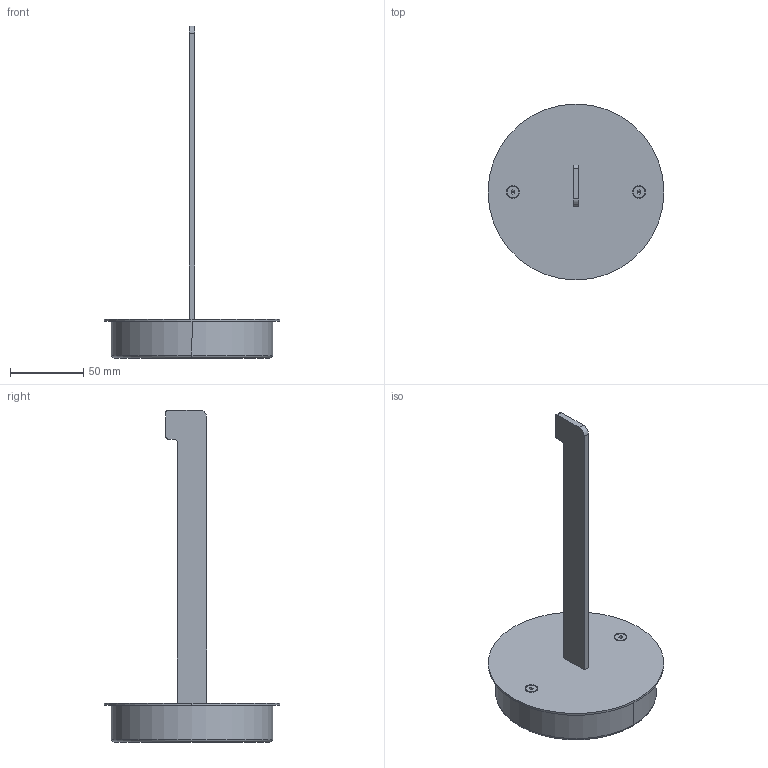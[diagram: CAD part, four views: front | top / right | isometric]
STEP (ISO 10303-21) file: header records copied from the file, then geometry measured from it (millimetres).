
FILE_DESCRIPTION((''),'2;1');
FILE_NAME('SANTORINI_HARDWIRED_WALL_BRACKE_ASM','2014-07-22T',('oftec'),(''),'PRO/ENGINEER BY PARAMETRIC TECHNOLOGY CORPORATION, 2012130','PRO/ENGINEER BY PARAMETRIC TECHNOLOGY CORPORATION, 2012130','');
FILE_SCHEMA(('CONFIG_CONTROL_DESIGN'));
Length unit declared in the file: millimetre
Products named in the file (6): 633-041; 654-050; 654-051; SANTORINI_WALL_BRACKET_ASM; DIN_7991_M4X12; SANTORINI_HARDWIRED_WALL_BRACKE_ASM
Assembly tree (6 placements, depth 3):
  SANTORINI_HARDWIRED_WALL_BRACKE_ASM
    633-041
    SANTORINI_WALL_BRACKET_ASM
      654-050
      654-051
    DIN_7991_M4X12  x2
Bounding box: 120 x 120 x 226.5 mm (x, y, z)
Volume: 59834.2 mm3; surface area: 68939 mm2
Topology: 5 solids, 5 shells, 85 faces, 188 edges, 116 vertices
Faces by surface type: plane 39, cylinder 18, cone 12, bspline 12, torus 4
Entity records: 2035 total; most frequent: CARTESIAN_POINT 450, DIRECTION 332, ORIENTED_EDGE 280, EDGE_CURVE 140, AXIS2_PLACEMENT_3D 122, VECTOR 88, LINE 88, VERTEX_POINT 88
